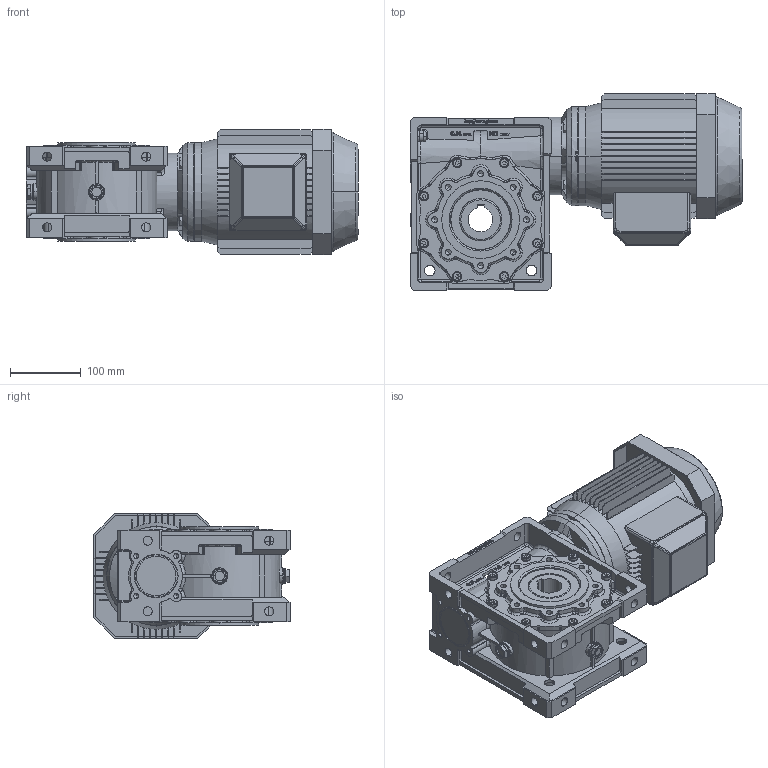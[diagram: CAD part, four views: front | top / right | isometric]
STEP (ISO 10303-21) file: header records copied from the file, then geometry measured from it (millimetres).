
FILE_DESCRIPTION((''),'2;1');
FILE_NAME('F:\Ghirri\3D\MV_V90\stp\MV90_B14-90S.stp','2005-06-13T19:44:40',('Administrator'),(''),'Autodesk Inventor 9','Autodesk Inventor 9','');
FILE_SCHEMA(('AUTOMOTIVE_DESIGN { 1 0 10303 214 1 1 1 1 }'));
Length unit declared in the file: millimetre
Products named in the file (14): MV90_B14-90S; 4009001-A0; 4009004-A0; TCCE-8X20-ribassata; 4009008-A0; UNI-ISO 6194-1 (4) Tipo4 60 x  85 x  8; Capp-62-7; Guarnizione-tappo-3-8-gas; Tappo-3-8-gas-nero; Paraolio-40-68-7; motori B14 90S; 4011006-B0; UNI 5739  (Filetto regolare) M8 x 25
Assembly tree (28 placements, depth 3):
  MV90_B14-90S
    4009001-A0
    4009004-A0
    TCCE-8X20-ribassata  x8
    4009008-A0
    UNI-ISO 6194-1 (4) Tipo4 60 x  85 x  8  x2
    Capp-62-7
    Guarnizione-tappo-3-8-gas  x3
    Tappo-3-8-gas-nero  x3
    Paraolio-40-68-7
    motori B14 90S
    4011006-B0
      4011006-B0
      UNI 5739  (Filetto regolare) M8 x 25  x4
Bounding box: 470 x 278.5 x 177 mm (x, y, z)
Volume: 8694999.8 mm3; surface area: 938013.3 mm2
Topology: 27 solids, 30 shells, 3682 faces, 9605 edges, 6091 vertices
Faces by surface type: plane 1478, cylinder 1080, bspline 901, cone 161, torus 58, sphere 4
Entity records: 121592 total; most frequent: CARTESIAN_POINT 42140, ORIENTED_EDGE 17298, DIRECTION 15544, EDGE_CURVE 8649, VERTEX_POINT 5589, AXIS2_PLACEMENT_3D 5365, VECTOR 4814, LINE 4814
